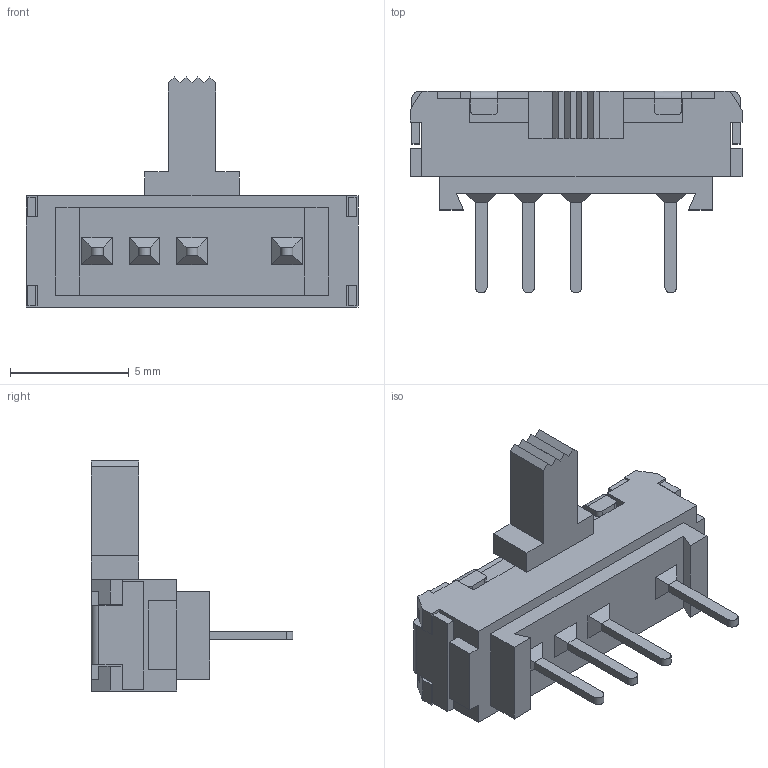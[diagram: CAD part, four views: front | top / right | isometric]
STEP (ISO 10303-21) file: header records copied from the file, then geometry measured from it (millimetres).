
FILE_DESCRIPTION (( 'STEP AP214' ), '1' );
FILE_NAME ('SSSS91B600.STEP', '2011-12-08T10:54:48', ( ' ' ), ( '' ), 'SwSTEP 2.0', 'SolidWorks 2010', '' );
FILE_SCHEMA (( 'AUTOMOTIVE_DESIGN' ));
Length unit declared in the file: millimetre
Products named in the file (1): SSSS91B600
Bounding box: 14 x 8.5 x 9.7 mm (x, y, z)
Volume: 286.6 mm3; surface area: 422 mm2
Topology: 1 solids, 1 shells, 196 faces, 533 edges, 344 vertices
Faces by surface type: plane 181, cylinder 15
Entity records: 8197 total; most frequent: CARTESIAN_POINT 1272, ORIENTED_EDGE 1066, DIRECTION 895, EDGE_CURVE 533, LINE 501, VECTOR 501, VERTEX_POINT 344, EDGE_LOOP 201
